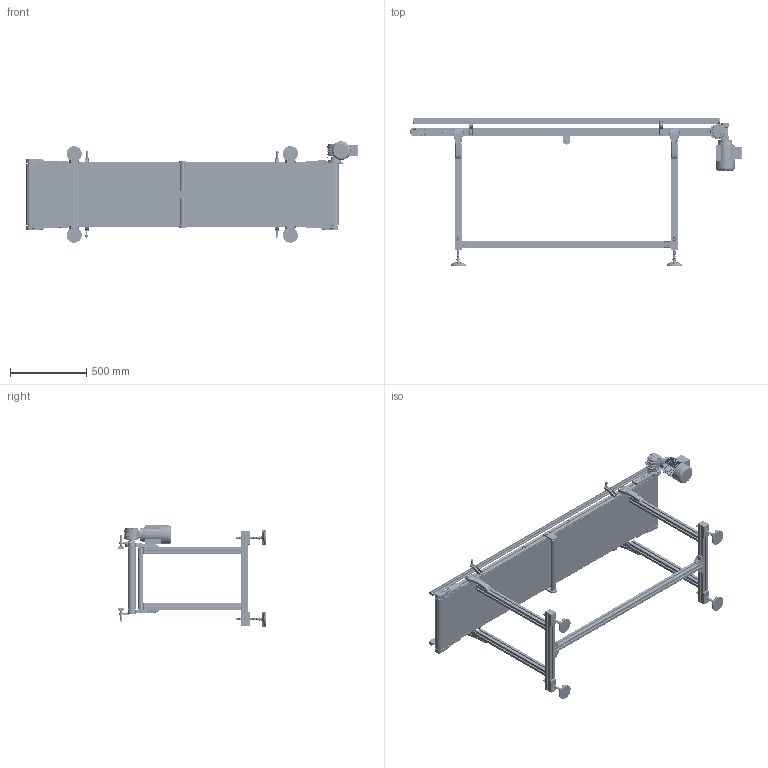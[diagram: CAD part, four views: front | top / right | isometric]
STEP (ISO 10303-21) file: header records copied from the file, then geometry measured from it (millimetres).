
FILE_DESCRIPTION (( 'STEP AP203' ), '1' );
FILE_NAME ('NASTRO_RETTILINEO_TAPPETO.step', '2026-04-28T06:51:04', ( 'Utente Windows' ), ( '' ), 'SwSTEP 2.0', 'SolidWorks 2024', '' );
FILE_SCHEMA (( 'CONFIG_CONTROL_DESIGN' ));
Length unit declared in the file: millimetre
Products named in the file (79): 084.811.001; 2010.000.068_L; 2010.000.068; 084.802.013-2; TAPPETO_STANDARD_CINGHIE; 084.301.000 VITI ALUSIC1_084.301.003; 084.802.008; 2010.000.069; RULLO_50_TRAINO_CINGHIE_44_DX; TRAVERSA_50_Default<A macchina>; BLOCCO_TRAINO_50_STANDARD_44_DX; VITI TSEI UNI 5933 INOX_0412UNI5933A2; 084.302.000 DADI ALUSIC 13x13-1_084.302.009; 084.711.006_PER CAVA 8 PERNO ALTO 1; ANGOLARE_43; 14UNI7435; FLANGIA_GAMBA_50; 084.810.001; 084.802.065_Default<A macchina>; 084.802.014; 084.301.000 VITI ALUSIC_084.301.009; BLOCCO_BRACCIO_CH04P_V2_VF44P V2; 084.802.017_084.802.017; 084.802.060_Default<A macchina>; 084.807.001_084.807.001; VITE_DADO_M5X12; VITI TE UNI 5739_M6x16 UNI 5739; 084.302.000 DADI ALUSIC 13x13_084.302.004; 084.711.006_L2; 084.711.005; 084.803.018; 2010.000.070; VITI TCEI UNI 5931_M4x25 UNI 5931; RONDELLE UNI 6592_8.4x17 UNI 6592; 084.802.071; 084.303.001; VITI TSEI UNI 5933_M5x12 UNI 5933; 084.802.034_084.802.034; BLOCCO_PERNO_50_RINVIO; BLOCCO_TRAINO_50_STANDARD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
Assembly tree (183 placements, depth 4):
  NASTRO_RETTILINEO_TAPPETO
    TAPPETO_STANDARD_CINGHIE
    TELAIO_50_CINGHIE_Default<A macchina>
    LAMIERA_STANDARD
    RULLO_50_TRAINO_CINGHIE_44_DX
    BLOCCO_PERNO_50_30
      084.810.001
      084.811.001
      RONDELLE FASCIA LARGA UNI 6593_5.4x20 UNI 6593
      084.301.000 VITI ALUSIC_084.301.009
      CHIAVETTE_A 5x5x40 UNI 6604-69
      CHIAVETTE_A 5x5x20 UNI 6604-69
      14UNI7435
    BLOCCO_TRAINO_50_STANDARD_44_DX
      084.807.001_084.807.001
      084.802.034_084.802.034
      084.301.000 VITI ALUSIC_084.301.003  x2
      084.302.000 DADI ALUSIC 13x13-1_084.302.004  x2
      BLOCCO_BRACCIO_CH04P_V2_VF44P V2
        084.808.012
        084.802.062
        084.803.018
        VITI TCEI UNI 5931_M6x12 UNI 5931  x4
        VITI TE UNI 5739_M6x16 UNI 5739  x4
        084.802.060_Default<A macchina>
      084.802.065_Default<A macchina>
      VITI TCEI UNI 5931_M4x25 UNI 5931  x2
    BLOCCO_PERNO_50_RINVIO
      084.811.004
      084.810.001
    BLOCCO_TRAINO_50_STANDARD
      084.807.002_084.807.002
      084.802.017_084.802.017
      084.301.000 VITI ALUSIC_084.301.003  x2
      084.302.000 DADI ALUSIC 13x13-1_084.302.004  x2
      VITI TSEI UNI 5933_M4x12 UNI 5933  x4
      084.802.071
      VITI TSEI UNI 5933 INOX_0412UNI5933A2  x2
    RULLO_50_RINVIO_CINGHIE
    BLOCCO_RINVIO_50_STANDARD  x2
      084.807.002_084.807.002
      084.802.017_084.802.017
      084.802.008
      084.301.000 VITI ALUSIC_084.301.003
      084.302.000 DADI ALUSIC 13x13_084.302.004
      VITI TSEI UNI 5933_M4x10 UNI 5933
      084.802.071
    SPONDA_Default<A macchina>  x2
    084.711.006_PER CAVA 8 PERNO ALTO 1  x4
      084.711.006_L1
      084.711.006_L2
      084.711.007
      084.711.005
      084.711.010
      DADI ESAGONALI NORMALI UNI 5588_M6 UNI 5588
    084.712.002  x4
    GAMBE_D50_Default<A macchina>  x2
    FLANGIA_GAMBA_50
      084.302.000 DADI ALUSIC 13x13-1_084.302.004  x4
      RONDELLE UNI 6592_8.4x17 UNI 6592  x3
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Bounding box: 2181.6 x 972.1 x 666.44 mm (x, y, z)
Volume: 21505792.8 mm3; surface area: 13187701.1 mm2
Topology: 319 solids, 330 shells, 16813 faces, 43617 edges, 27694 vertices
Faces by surface type: plane 7141, cylinder 5095, bspline 1830, cone 1440, torus 1135, sphere 172
Entity records: 260670 total; most frequent: CARTESIAN_POINT 88074, ORIENTED_EDGE 35238, DIRECTION 32229, EDGE_CURVE 17619, AXIS2_PLACEMENT_3D 11321, VERTEX_POINT 11304, VECTOR 9587, LINE 9587
